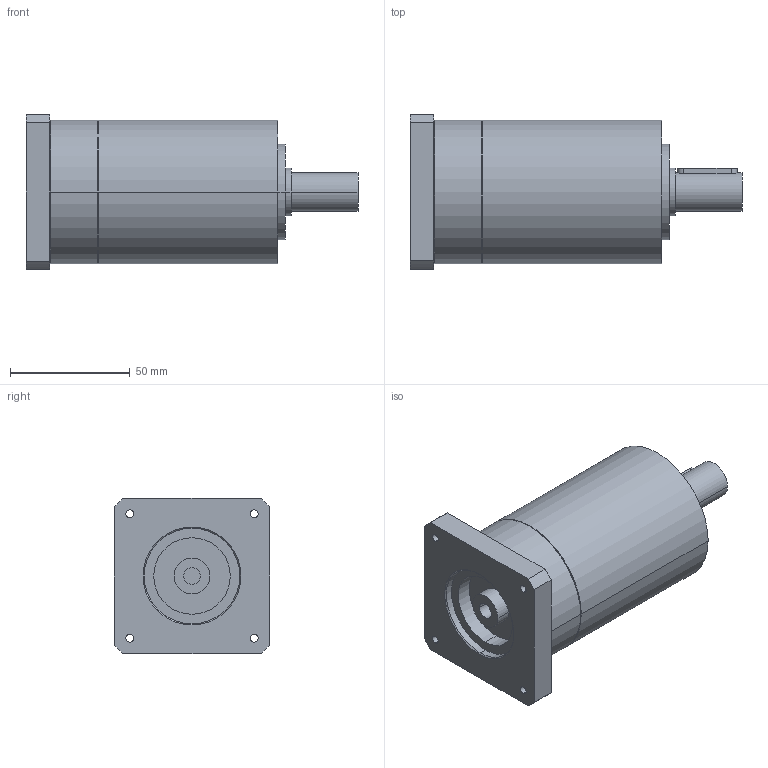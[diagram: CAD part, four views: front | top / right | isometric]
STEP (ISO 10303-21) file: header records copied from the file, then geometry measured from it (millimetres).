
FILE_DESCRIPTION(('CoCreate Modeling STEP Export'),'2;1');
FILE_NAME('GPR75_ig-9-12-16-20-24-30-36_16_B14_7_P34.stp','2014-08-25T16:05:42',(''),(''),'CoCreate Modeling STEP processor for AP214 (Solid Model)','CoCreate Modeling 16.00C 25-Feb-2009 (C) Parametric Technology GmbH','');
FILE_SCHEMA(('AUTOMOTIVE_DESIGN { 1 0 10303 214 1 1 1 1 }'));
Length unit declared in the file: millimetre
Products named in the file (2): GPR75_ig-9-12-16-20-24-30-36_16_B14_7_P34
Assembly tree (1 placements, depth 2):
  GPR75_ig-9-12-16-20-24-30-36_16_B14_7_P34
    GPR75_ig-9-12-16-20-24-30-36_16_B14_7_P34
Bounding box: 138.9 x 65 x 65 mm (x, y, z)
Volume: 311605.6 mm3; surface area: 34067.9 mm2
Topology: 1 solids, 1 shells, 72 faces, 191 edges, 133 vertices
Faces by surface type: cylinder 42, plane 22, cone 8
Entity records: 1974 total; most frequent: ORIENTED_EDGE 378, CARTESIAN_POINT 365, DIRECTION 268, EDGE_CURVE 189, VERTEX_POINT 133, AXIS2_PLACEMENT_3D 100, EDGE_LOOP 94, FACE_OUTER_BOUND 72
